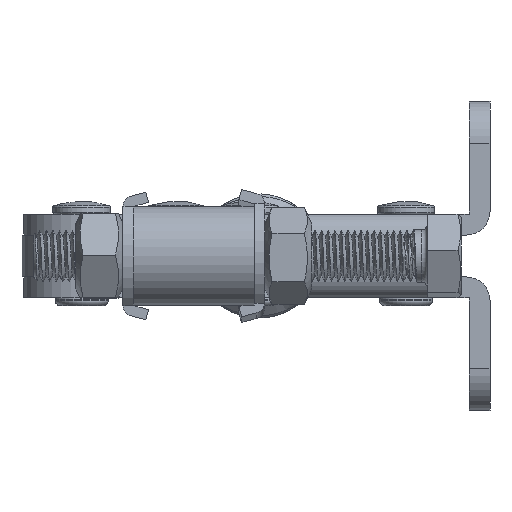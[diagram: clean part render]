
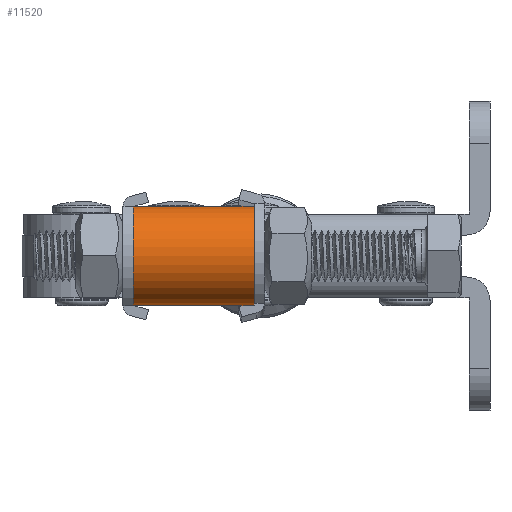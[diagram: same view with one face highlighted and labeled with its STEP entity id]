
A CAD part, left-side view. The second image highlights one B-rep face of the part: STEP entity #11520.
In plain terms, the highlighted cylindrical face has radius 9.5 mm (diameter 19 mm), a partial arc.
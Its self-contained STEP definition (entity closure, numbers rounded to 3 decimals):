
#427=CYLINDRICAL_SURFACE('',#12417,9.5);
#1131=FACE_OUTER_BOUND('',#1786,.T.);
#1786=EDGE_LOOP('',(#9378,#9379,#9380,#9381));
#2310=CIRCLE('',#12371,9.5);
#2314=CIRCLE('',#12376,9.5);
#3134=LINE('',#65366,#4087);
#3411=LINE('',#69509,#4364);
#4087=VECTOR('',#13654,1000.);
#4364=VECTOR('',#14031,1000.);
#5144=VERTEX_POINT('',#65362);
#5146=VERTEX_POINT('',#65365);
#5341=VERTEX_POINT('',#66992);
#5353=VERTEX_POINT('',#67017);
#6476=EDGE_CURVE('',#5144,#5146,#3134,.T.);
#6678=EDGE_CURVE('',#5341,#5146,#2310,.T.);
#6691=EDGE_CURVE('',#5144,#5353,#2314,.T.);
#6950=EDGE_CURVE('',#5353,#5341,#3411,.T.);
#9378=ORIENTED_EDGE('',*,*,#6691,.T.);
#9379=ORIENTED_EDGE('',*,*,#6950,.T.);
#9380=ORIENTED_EDGE('',*,*,#6678,.T.);
#9381=ORIENTED_EDGE('',*,*,#6476,.F.);
#11520=ADVANCED_FACE('',(#1131),#427,.T.);
#12371=AXIS2_PLACEMENT_3D('',#66993,#13743,#13744);
#12376=AXIS2_PLACEMENT_3D('',#67019,#13762,#13763);
#12417=AXIS2_PLACEMENT_3D('',#69508,#14029,#14030);
#13654=DIRECTION('',(0.,1.,0.));
#13743=DIRECTION('center_axis',(0.,-1.,0.));
#13744=DIRECTION('ref_axis',(0.,0.,-1.));
#13762=DIRECTION('center_axis',(0.,1.,0.));
#13763=DIRECTION('ref_axis',(0.,0.,1.));
#14029=DIRECTION('center_axis',(0.,1.,0.));
#14030=DIRECTION('ref_axis',(0.,0.,1.));
#14031=DIRECTION('',(0.,1.,0.));
#65362=CARTESIAN_POINT('',(9.5,0.,0.));
#65365=CARTESIAN_POINT('',(9.5,23.,0.));
#65366=CARTESIAN_POINT('',(9.5,-45.,0.));
#66992=CARTESIAN_POINT('',(9.5,23.,19.));
#66993=CARTESIAN_POINT('Origin',(9.5,23.,9.5));
#67017=CARTESIAN_POINT('',(9.5,0.,19.));
#67019=CARTESIAN_POINT('Origin',(9.5,0.,9.5));
#69508=CARTESIAN_POINT('Origin',(9.5,-45.,9.5));
#69509=CARTESIAN_POINT('',(9.5,-45.,19.));
